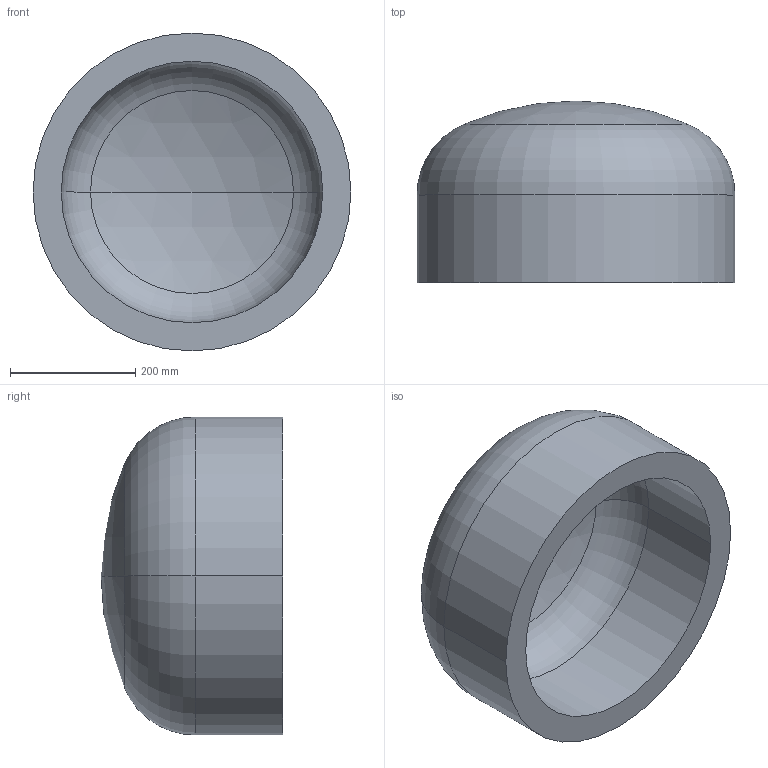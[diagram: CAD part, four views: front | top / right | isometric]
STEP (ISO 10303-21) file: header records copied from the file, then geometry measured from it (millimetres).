
FILE_DESCRIPTION (( 'STEP AP203' ), '1' );
FILE_NAME ('DIN 28013 Korbbogenform_-_Boden DIN 28013 - 508 x 140 - I - s=45.step', '2016-07-01T07:55:07', ( '' ), ( '' ), 'SwSTEP 2.0', 'SolidWorks 2013', '' );
FILE_SCHEMA (( 'CONFIG_CONTROL_DESIGN' ));
Length unit declared in the file: millimetre
Products named in the file (1): DIN 28013 Korbbogenform_-_Boden DIN 28013 - 508 x 140 - I - s=45
Bounding box: 508 x 290.3 x 508 mm (x, y, z)
Volume: 20467715 mm3; surface area: 979372.4 mm2
Topology: 1 solids, 1 shells, 13 faces, 24 edges, 14 vertices
Faces by surface type: torus 4, cylinder 4, sphere 4, plane 1
Entity records: 407 total; most frequent: DIRECTION 72, CARTESIAN_POINT 52, ORIENTED_EDGE 48, AXIS2_PLACEMENT_3D 34, EDGE_CURVE 24, CIRCLE 20, VERTEX_POINT 14, EDGE_LOOP 14
